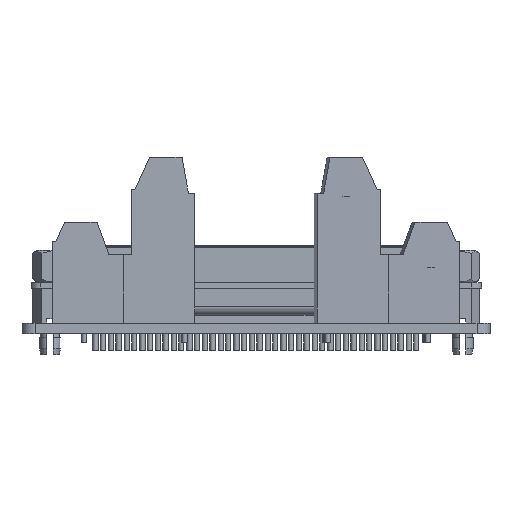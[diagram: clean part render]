
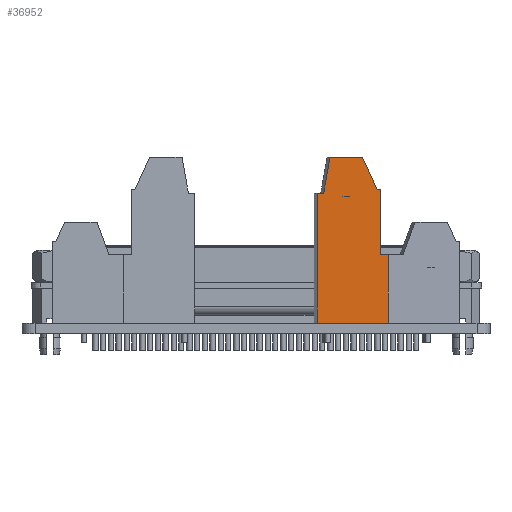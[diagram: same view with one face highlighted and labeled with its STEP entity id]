
A CAD part, front view. The second image highlights one B-rep face of the part: STEP entity #36952.
In plain terms, the highlighted planar face has unit normal (0.005, -1, 0).
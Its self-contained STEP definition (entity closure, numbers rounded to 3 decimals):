
#1957=DIRECTION('',(1.,0.005,0.));
#1958=VECTOR('',#1957,10.9);
#1959=CARTESIAN_POINT('',(-26.584,10.991,1.6));
#1960=LINE('',#1959,#1958);
#6938=DIRECTION('',(0.174,0.001,0.985));
#6939=VECTOR('',#6938,5.585);
#6940=CARTESIAN_POINT('',(-25.584,10.997,21.6));
#6941=LINE('',#6940,#6939);
#6942=DIRECTION('',(0.411,0.002,-0.911));
#6943=VECTOR('',#6942,5.486);
#6944=CARTESIAN_POINT('',(-19.614,11.029,27.1));
#6945=LINE('',#6944,#6943);
#6946=DIRECTION('',(1.,0.005,0.));
#6947=VECTOR('',#6946,1.174);
#6948=CARTESIAN_POINT('',(-16.857,11.044,12.1));
#6949=LINE('',#6948,#6947);
#6950=DIRECTION('',(0.,0.,-1.));
#6951=VECTOR('',#6950,10.5);
#6952=CARTESIAN_POINT('',(-15.684,11.051,12.1));
#6953=LINE('',#6952,#6951);
#6954=DIRECTION('',(0.,0.,-1.));
#6955=VECTOR('',#6954,20.);
#6956=CARTESIAN_POINT('',(-26.584,10.991,21.6));
#6957=LINE('',#6956,#6955);
#7466=DIRECTION('',(0.,0.,1.));
#7467=VECTOR('',#7466,10.);
#7468=CARTESIAN_POINT('',(-16.857,11.044,12.1));
#7469=LINE('',#7468,#7467);
#7478=DIRECTION('',(-1.,-0.005,0.));
#7479=VECTOR('',#7478,0.5);
#7480=CARTESIAN_POINT('',(-16.857,11.044,22.1));
#7481=LINE('',#7480,#7479);
#7494=DIRECTION('',(-1.,-0.005,0.));
#7495=VECTOR('',#7494,5.);
#7496=CARTESIAN_POINT('',(-19.614,11.029,27.1));
#7497=LINE('',#7496,#7495);
#7670=DIRECTION('',(-1.,-0.005,0.));
#7671=VECTOR('',#7670,1.);
#7672=CARTESIAN_POINT('',(-25.584,10.997,21.6));
#7673=LINE('',#7672,#7671);
#20986=CARTESIAN_POINT('',(-15.684,11.051,12.1));
#20987=VERTEX_POINT('',#20986);
#21192=CARTESIAN_POINT('',(-25.584,10.997,21.6));
#21193=CARTESIAN_POINT('',(-26.584,10.991,21.6));
#21194=VERTEX_POINT('',#21192);
#21195=VERTEX_POINT('',#21193);
#21196=CARTESIAN_POINT('',(-24.614,11.002,27.1));
#21197=VERTEX_POINT('',#21196);
#21198=CARTESIAN_POINT('',(-19.614,11.029,27.1));
#21199=VERTEX_POINT('',#21198);
#21200=CARTESIAN_POINT('',(-17.357,11.042,22.1));
#21201=VERTEX_POINT('',#21200);
#21202=CARTESIAN_POINT('',(-16.857,11.044,22.1));
#21203=VERTEX_POINT('',#21202);
#21204=CARTESIAN_POINT('',(-16.857,11.044,12.1));
#21205=VERTEX_POINT('',#21204);
#24546=CARTESIAN_POINT('',(-15.684,11.051,1.6));
#24547=VERTEX_POINT('',#24546);
#24548=CARTESIAN_POINT('',(-26.584,10.991,1.6));
#24549=VERTEX_POINT('',#24548);
#36927=CARTESIAN_POINT('',(-21.134,11.021,14.35));
#36928=DIRECTION('',(-0.005,1.,0.));
#36929=DIRECTION('',(1.,0.005,0.));
#36930=AXIS2_PLACEMENT_3D('',#36927,#36928,#36929);
#36931=PLANE('',#36930);
#36932=ORIENTED_EDGE('',*,*,#26158,.F.);
#36934=ORIENTED_EDGE('',*,*,#36933,.F.);
#36936=ORIENTED_EDGE('',*,*,#36935,.F.);
#36938=ORIENTED_EDGE('',*,*,#36937,.T.);
#36940=ORIENTED_EDGE('',*,*,#36939,.F.);
#36942=ORIENTED_EDGE('',*,*,#36941,.T.);
#36944=ORIENTED_EDGE('',*,*,#36943,.F.);
#36946=ORIENTED_EDGE('',*,*,#36945,.F.);
#36948=ORIENTED_EDGE('',*,*,#36947,.T.);
#36949=ORIENTED_EDGE('',*,*,#36912,.T.);
#36950=EDGE_LOOP('',(#36932,#36934,#36936,#36938,#36940,#36942,#36944,#36946,
#36948,#36949));
#36951=FACE_OUTER_BOUND('',#36950,.F.);
#26158=EDGE_CURVE('',#24549,#24547,#1960,.T.);
#36912=EDGE_CURVE('',#20987,#24547,#6953,.T.);
#36933=EDGE_CURVE('',#21195,#24549,#6957,.T.);
#36935=EDGE_CURVE('',#21194,#21195,#7673,.T.);
#36937=EDGE_CURVE('',#21194,#21197,#6941,.T.);
#36939=EDGE_CURVE('',#21199,#21197,#7497,.T.);
#36941=EDGE_CURVE('',#21199,#21201,#6945,.T.);
#36943=EDGE_CURVE('',#21203,#21201,#7481,.T.);
#36945=EDGE_CURVE('',#21205,#21203,#7469,.T.);
#36947=EDGE_CURVE('',#21205,#20987,#6949,.T.);
#36952=ADVANCED_FACE('',(#36951),#36931,.F.);
